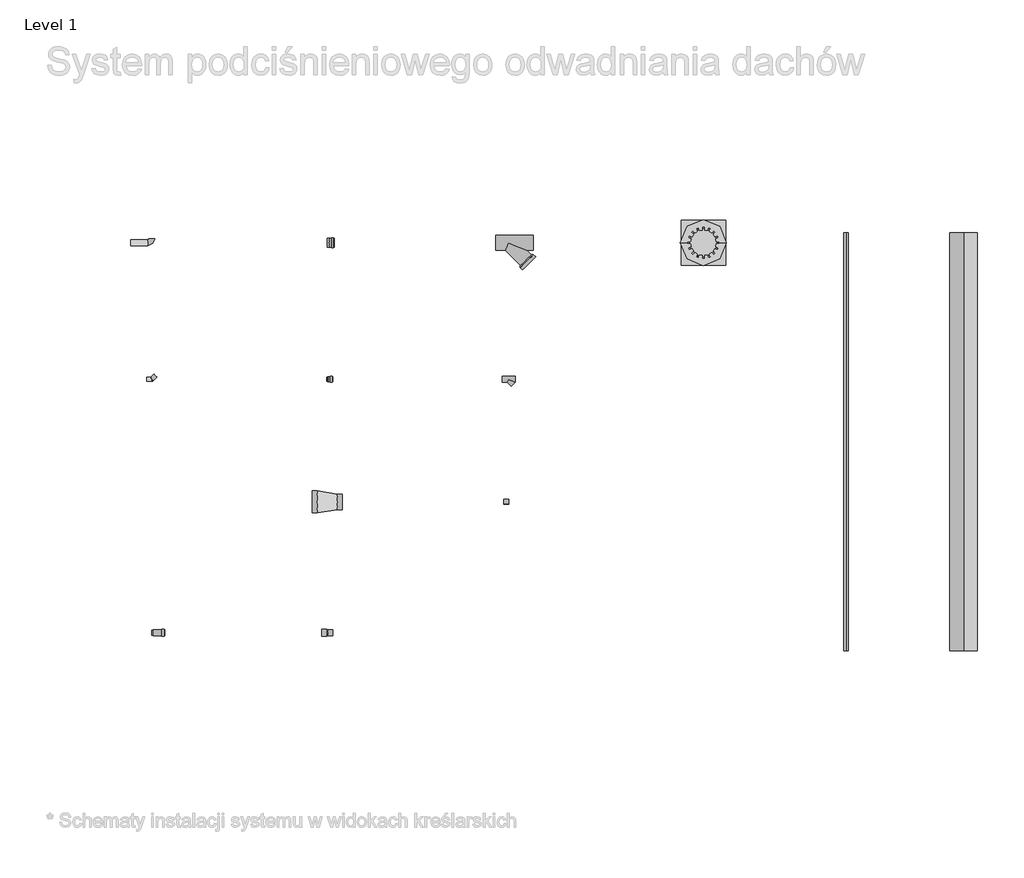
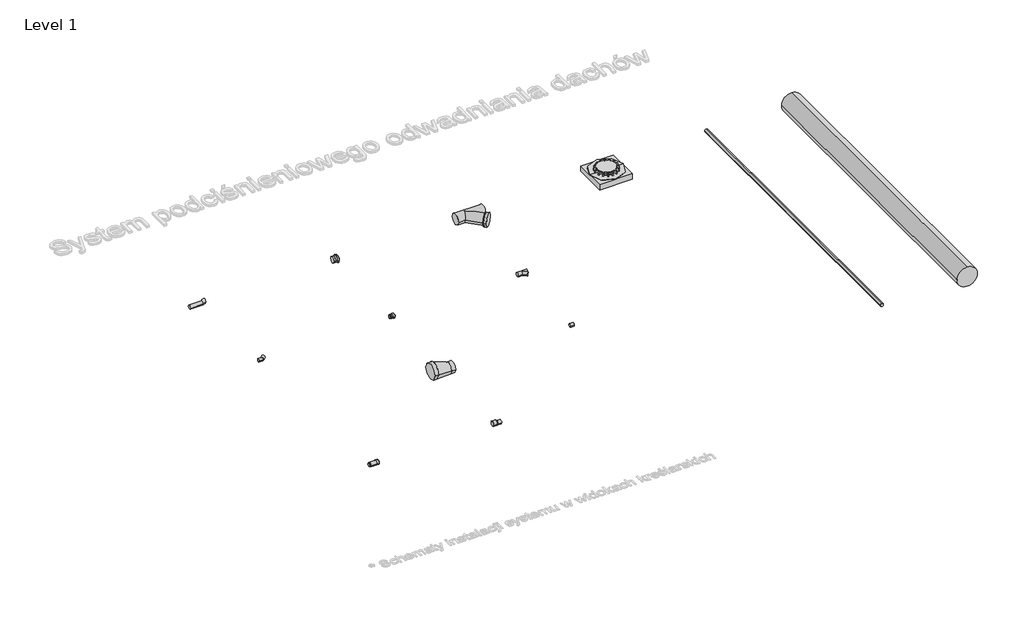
# One storey, part 1 of 3: 10 pipe fittings, 2 pipe segments, 1 flow terminal.
"""IFC4 building model written with IfcOpenShell, lengths in millimetres."""

from ifc_helpers import new_model, si_unit, point, frame, frame_2d, origin, place, context, project, spatial, circle_curve, trimmed, segment, composite_curve, outline, extrude, transform, mapped, element, save
from components import flow_terminal_c4a0d1e7, pipe_fitting_31b7b513, pipe_fitting_fe5a80f3, pipe_fitting_f4065a0c, pipe_fitting_e673ebe5, pipe_fitting_b099013e, pipe_fitting_175f76b9, pipe_fitting_2061612c, pipe_fitting_55f24a21, pipe_fitting_4e02e438, pipe_fitting_60_56_4c1a00ec

model = new_model("IFC4")

# Units and contexts
model_context = context("Model", 3, world=origin())
ifc_project = project(units=[si_unit("LENGTHUNIT", "METRE", prefix="MILLI")], contexts=[model_context])

# Site, building, storey
site = spatial("IfcSite", under=ifc_project)
building = spatial("IfcBuilding", under=site)
storey = spatial("IfcBuildingStorey", under=building, Name="Level 1", Elevation=0.0)

# Flow terminal
placement = place(None, origin())
flow_terminal_shape = flow_terminal_c4a0d1e7(model_context)
element("IfcFlowTerminal", 1, ObjectType="Pipelife - VRD - Wpust Hydromax z kołnierzem 75 : Pipelife - VRD - Wpust Hydromax z kołnierzem 75", at=placement, inside=storey, context=model_context, shape_type="MappedRepresentation", body=[
    mapped(flow_terminal_shape, transform((-13432.6671252, 986.050427, 0.0), x_axis=(1.0, 0.0, 0.0), y_axis=(0.0, 1.0, 0.0), z_axis=(0.0, 0.0, 1.0))),
])

# Pipe fittings
pipe_fitting_shape = pipe_fitting_31b7b513(model_context)
element("IfcPipeFitting", 2, ObjectType="Pipelife - VRD - Kolano wydłużone : Pipelife - VRD - Kolano wydłużone", at=placement, inside=storey, context=model_context, shape_type="MappedRepresentation", body=[
    mapped(pipe_fitting_shape, transform((-17392.6671252, 986.050427, 0.0), x_axis=(1.0, 0.0, 0.0), y_axis=(0.0, 1.0, 0.0), z_axis=(0.0, 0.0, 1.0))),
])
pipe_fitting_2_shape = pipe_fitting_fe5a80f3(model_context)
element("IfcPipeFitting", 3, ObjectType="Pipelife - VRD - Kolano : Pipelife - VRD - Kolano", at=placement, inside=storey, context=model_context, shape_type="MappedRepresentation", body=[
    mapped(pipe_fitting_2_shape, transform((-17392.6671252, 6.050427, 0.0), x_axis=(1.0, 0.0, 0.0), y_axis=(0.0, 1.0, 0.0), z_axis=(0.0, 0.0, 1.0))),
])
pipe_fitting_3_shape = pipe_fitting_f4065a0c(model_context)
element("IfcPipeFitting", 4, ObjectType="Pipelife - VRD - Mufa kompensacyjna z uszczelką : Pipelife - VRD - Mufa kompensacyjna z uszczelką", at=placement, inside=storey, context=model_context, shape_type="MappedRepresentation", body=[
    mapped(pipe_fitting_3_shape, transform((-17392.6671252, -1813.949573, 0.0), x_axis=(1.0, 0.0, 0.0), y_axis=(0.0, 1.0, 0.0), z_axis=(0.0, 0.0, 1.0))),
])
pipe_fitting_4_shape = pipe_fitting_e673ebe5(model_context)
element("IfcPipeFitting", 5, ObjectType="Pipelife - VRD - Mufa z uszczelką : Pipelife - VRD - Mufa z uszczelką", at=placement, inside=storey, context=model_context, shape_type="MappedRepresentation", body=[
    mapped(pipe_fitting_4_shape, transform((-16132.6671252, 6.050427, 0.0), x_axis=(1.0, 0.0, 0.0), y_axis=(0.0, 1.0, 0.0), z_axis=(0.0, 0.0, 1.0))),
])
pipe_fitting_5_shape = pipe_fitting_b099013e(model_context)
element("IfcPipeFitting", 6, ObjectType="Pipelife - VRD - Rewizja : Pipelife - VRD - Rewizja", at=placement, inside=storey, context=model_context, shape_type="MappedRepresentation", body=[
    mapped(pipe_fitting_5_shape, transform((-14832.6671252, 986.050427, 0.0), x_axis=(1.0, 0.0, 0.0), y_axis=(0.0, 1.0, 0.0), z_axis=(0.0, 0.0, 1.0))),
])
pipe_fitting_6_shape = pipe_fitting_175f76b9(model_context)
element("IfcPipeFitting", 7, ObjectType="Pipelife - VRD - Trójnik : Pipelife - VRD - Trójnik", at=placement, inside=storey, context=model_context, shape_type="MappedRepresentation", body=[
    mapped(pipe_fitting_6_shape, transform((-14832.6671252, 6.050427, 0.0), x_axis=(1.0, 0.0, 0.0), y_axis=(0.0, 1.0, 0.0), z_axis=(0.0, 0.0, 1.0))),
])
pipe_fitting_7_shape = pipe_fitting_2061612c(model_context)
element("IfcPipeFitting", 8, ObjectType="Pipelife - VRD - Zaślepka : Pipelife - VRD - Zaślepka", at=placement, inside=storey, context=model_context, shape_type="MappedRepresentation", body=[
    mapped(pipe_fitting_7_shape, transform((-14832.6671252, -873.949573, 0.0), x_axis=(1.0, 0.0, 0.0), y_axis=(0.0, 1.0, 0.0), z_axis=(0.0, 0.0, 1.0))),
])
pipe_fitting_8_shape = pipe_fitting_55f24a21(model_context)
element("IfcPipeFitting", 9, ObjectType="Pipelife - VRD - Redukcja ekscentryczna długa : Pipelife - VRD - Redukcja ekscentryczna długa", at=placement, inside=storey, context=model_context, shape_type="MappedRepresentation", body=[
    mapped(pipe_fitting_8_shape, transform((-16132.6671252, -873.949573, 0.0), x_axis=(1.0, 0.0, 0.0), y_axis=(0.0, 1.0, 0.0), z_axis=(0.0, 0.0, 1.0))),
])
pipe_fitting_9_shape = pipe_fitting_4e02e438(model_context)
element("IfcPipeFitting", 10, ObjectType="Pipelife - VRD - Redukcja ekscentryczna : Pipelife - VRD - Redukcja ekscentryczna", at=placement, inside=storey, context=model_context, shape_type="MappedRepresentation", body=[
    mapped(pipe_fitting_9_shape, transform((-16132.6671252, -1813.949573, 0.0), x_axis=(1.0, 0.0, 0.0), y_axis=(0.0, 1.0, 0.0), z_axis=(0.0, 0.0, 1.0))),
])
pipe_fitting_60_56_shape = pipe_fitting_60_56_4c1a00ec(model_context)
element("IfcPipeFitting", 11, ObjectType="Pipelife - VRD - Mufa z uszczelką redukcyjna : 60/56", at=placement, inside=storey, context=model_context, shape_type="MappedRepresentation", body=[
    mapped(pipe_fitting_60_56_shape, transform((-16132.6671252, 986.050427, 0.0), x_axis=(1.0, 0.0, 0.0), y_axis=(0.0, 1.0, 0.0), z_axis=(0.0, 0.0, 1.0))),
])

# Pipe segments
element("IfcPipeSegment", 12, ObjectType="Pipelife PEHD, SDR 26", at=placement, inside=storey, context=model_context, shape_type="SweptSolid", body=[
    extrude(outline(composite_curve([segment(trimmed(circle_curve(frame_2d((0.0, -12407.5681638)), 16.0), [point((0.0, -12423.5681638))], [point((-16.0, -12407.5681638))], False, "CARTESIAN"), True, "CONTINUOUS"), segment(trimmed(circle_curve(frame_2d((0.0, -12407.5681638)), 16.0), [point((-16.0, -12407.5681638))], [point((0.0, -12391.5681638))], False, "CARTESIAN"), True, "CONTINUOUS"), segment(trimmed(circle_curve(frame_2d((0.0, -12407.5681638)), 16.0), [point((0.0, -12391.5681638))], [point((16.0, -12407.5681638))], False, "CARTESIAN"), True, "CONTINUOUS"), segment(trimmed(circle_curve(frame_2d((0.0, -12407.5681638)), 16.0), [point((16.0, -12407.5681638))], [point((0.0, -12423.5681638))], False, "CARTESIAN"), True, "CONTINUOUS")], self_intersect=False)), frame((0.0, -1941.8091091, 0.0), z_axis=(0.0, 1.0, 0.0), x_axis=(0.0, 0.0, 1.0)), (0.0, 0.0, 1.0), 3000.0),
])
element("IfcPipeSegment", 13, ObjectType="Pipelife PEHD, SDR 33", at=placement, inside=storey, context=model_context, shape_type="SweptSolid", body=[
    extrude(outline(composite_curve([segment(trimmed(circle_curve(frame_2d((0.0, -11565.1544924)), 100.0), [point((0.0, -11665.1544924))], [point((-100.0, -11565.1544924))], False, "CARTESIAN"), True, "CONTINUOUS"), segment(trimmed(circle_curve(frame_2d((0.0, -11565.1544924)), 100.0), [point((-100.0, -11565.1544924))], [point((0.0, -11465.1544924))], False, "CARTESIAN"), True, "CONTINUOUS"), segment(trimmed(circle_curve(frame_2d((0.0, -11565.1544924)), 100.0), [point((0.0, -11465.1544924))], [point((100.0, -11565.1544924))], False, "CARTESIAN"), True, "CONTINUOUS"), segment(trimmed(circle_curve(frame_2d((0.0, -11565.1544924)), 100.0), [point((100.0, -11565.1544924))], [point((0.0, -11665.1544924))], False, "CARTESIAN"), True, "CONTINUOUS")], self_intersect=False)), frame((0.0, -1941.8091091, 0.0), z_axis=(0.0, 1.0, 0.0), x_axis=(0.0, 0.0, 1.0)), (0.0, 0.0, 1.0), 3000.0),
])

save(model, "model.ifc")
